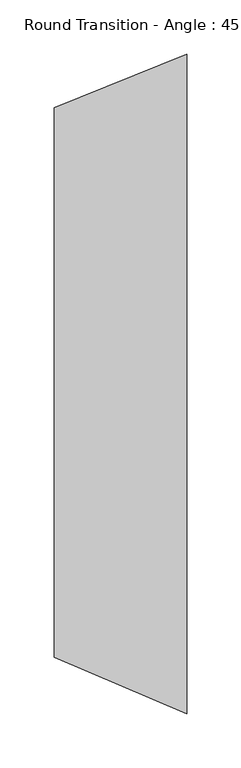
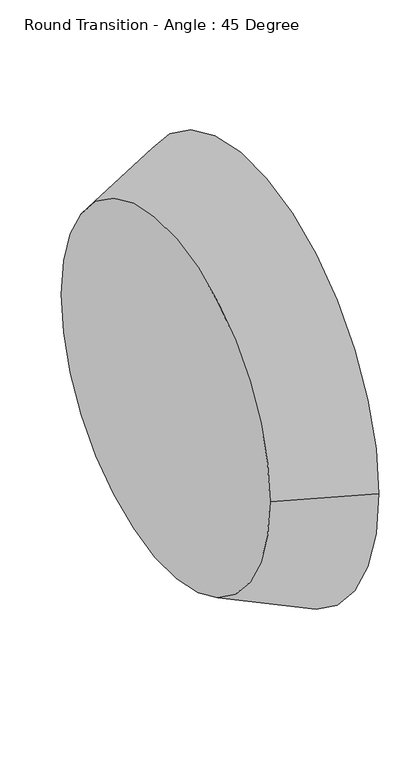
"""IFC4 building model written with IfcOpenShell, lengths in millimetres: duct fitting geometry, Round Transition - Angle : 45 Degree."""

from ifc_helpers import new_model, si_unit, frame, origin, place, context, project, spatial, circle_curve, source, transform, mapped, element, save
from ifc_brep_helpers import plane_surface, spline_surface, advanced_brep


def round_transition_angle_45_degree_fbcaaa33(model_context):
    return source(origin(), model_context, "Body", "AdvancedBrep", [
        advanced_brep(
        [(122.6304907, -306.0886468, 0.0), (122.6304907, 303.5113532, 0.0), (0.0, -254.0, 0.0), (0.0, 254.0, 0.0)],
        [
            (0, 1, circle_curve(frame((122.6304907, -1.2886468, 0.0), z_axis=(1.0, 0.0, 0.0), x_axis=(0.0, 1.0, 0.0)), 304.8)),
            (1, 0, circle_curve(frame((122.6304907, -1.2886468, 0.0), z_axis=(1.0, 0.0, 0.0), x_axis=(0.0, 1.0, 0.0)), 304.8)),
            (2, 3, circle_curve(frame((0.0, 0.0, 0.0), z_axis=(-1.0, 0.0, 0.0), x_axis=(0.0, 1.0, 0.0)), 254.0)),
            (3, 2, circle_curve(frame((0.0, 0.0, 0.0), z_axis=(-1.0, 0.0, 0.0), x_axis=(0.0, 1.0, 0.0)), 254.0)),
            (3, 1),
            (0, 2),
        ],
        [
            plane_surface(frame((122.6304907, -1.2886468, 0.0), z_axis=(1.0, 0.0, 0.0), x_axis=(0.0, 0.0, -1.0))),
            plane_surface(frame((0.0, 0.0, 0.0), z_axis=(-1.0, 0.0, 0.0), x_axis=(0.0, 0.0, -1.0))),
            spline_surface(2, 1, [[(0.0, -254.0, 0.0), (122.6304907, -306.0886468, 0.0)], [(0.0, -254.0, -254.0), (122.6304907, -306.0886468, -304.8)], [(0.0, 0.0, -254.0), (122.6304907, -1.2886468, -304.8)], [(0.0, 254.0, -254.00000000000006), (122.6304907, 303.51135320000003, -304.80000000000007)], [(0.0, 254.0, 0.0), (122.6304907, 303.5113532, 0.0)]], [3, 2, 3], [2, 2], [0.0, 1.0, 2.0], [0.0, 1.0], weights=[[1.0, 1.0], [0.7071067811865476, 0.7071067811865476], [1.0, 1.0], [0.7071067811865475, 0.7071067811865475], [1.0, 1.0]]),
            spline_surface(2, 1, [[(0.0, 254.0, 0.0), (122.6304907, 303.5113532, 0.0)], [(0.0, 254.0, 254.0), (122.6304907, 303.5113532, 304.79999999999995)], [(0.0, 0.0, 254.0), (122.6304907, -1.2886468, 304.79999999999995)], [(0.0, -254.0, 253.99999999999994), (122.6304907, -306.08864679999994, 304.7999999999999)], [(0.0, -254.0, 0.0), (122.6304907, -306.0886468, 0.0)]], [3, 2, 3], [2, 2], [0.0, 1.0, 2.0], [0.0, 1.0], weights=[[1.0, 1.0], [0.7071067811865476, 0.7071067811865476], [1.0, 1.0], [0.7071067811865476, 0.7071067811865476], [1.0, 1.0]]),
        ],
        [
            (0, [[1, 2]]),
            (1, [[3, 4]]),
            (2, [[-4, 5, -1, 6]]),
            (3, [[-3, -6, -2, -5]]),
        ],
    ),
    ])


if __name__ == "__main__":
    model = new_model("IFC4")
    model_context = context("Model", 3, world=origin())
    ifc_project = project(units=[si_unit("LENGTHUNIT", "METRE", prefix="MILLI")], contexts=[model_context])
    site = spatial("IfcSite", under=ifc_project)
    building = spatial("IfcBuilding", under=site)
    placement = place(None, origin())
    round_transition_angle_45_degree_shape = round_transition_angle_45_degree_fbcaaa33(model_context)
    element("IfcDuctFitting", 1, ObjectType="Round Transition - Angle : 45 Degree", at=placement, inside=building, context=model_context, shape_type="MappedRepresentation", body=[
        mapped(round_transition_angle_45_degree_shape, transform((0.0, 0.0, 0.0), x_axis=(1.0, 0.0, 0.0), y_axis=(0.0, 1.0, 0.0), z_axis=(0.0, 0.0, 1.0))),
    ])
    save(model, "model.ifc")
